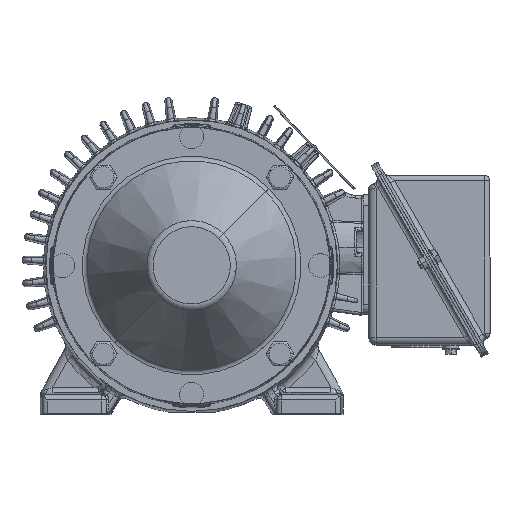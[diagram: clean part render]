
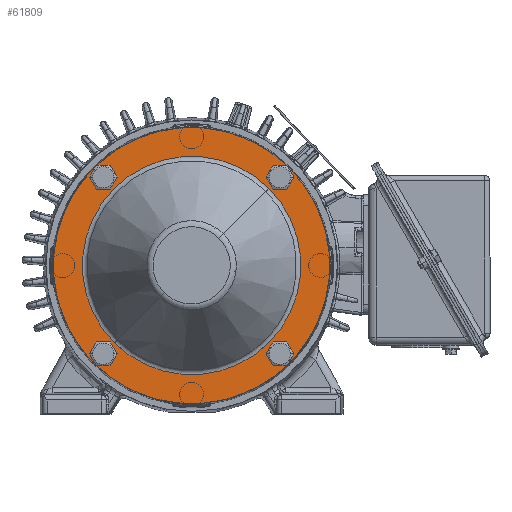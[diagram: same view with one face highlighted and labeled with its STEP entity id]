
A CAD part, top view. The second image highlights one B-rep face of the part: STEP entity #61809.
In plain terms, the highlighted planar face has unit normal (0, 0, 1).
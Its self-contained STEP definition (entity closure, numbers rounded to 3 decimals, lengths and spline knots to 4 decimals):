
#1041 = CARTESIAN_POINT ( 'NONE',  ( -2.2981, -2.2981, -1.7028 ) ) ;
#1823 = CIRCLE ( 'NONE', #78705, 0.2031 ) ;
#3154 = ORIENTED_EDGE ( 'NONE', *, *, #72715, .F. ) ;
#3495 = DIRECTION ( 'NONE',  ( -0.707, -0.707, 0. ) ) ;
#3705 = EDGE_CURVE ( 'NONE', #59226, #78742, #40432, .T. ) ;
#4012 = DIRECTION ( 'NONE',  ( 0., 0., 1. ) ) ;
#4861 = DIRECTION ( 'NONE',  ( 0., 0., 1. ) ) ;
#5692 = DIRECTION ( 'NONE',  ( -0.707, -0.707, 0. ) ) ;
#6611 = CARTESIAN_POINT ( 'NONE',  ( 1.8152, 1.8152, -1.7028 ) ) ;
#7069 = CARTESIAN_POINT ( 'NONE',  ( 1.9335, 1.9335, -1.7028 ) ) ;
#9165 = ORIENTED_EDGE ( 'NONE', *, *, #90983, .F. ) ;
#13343 = DIRECTION ( 'NONE',  ( 0., 0., 1. ) ) ;
#14379 = EDGE_CURVE ( 'NONE', #145038, #64866, #143306, .T. ) ;
#14680 = CIRCLE ( 'NONE', #56898, 0.2031 ) ;
#15129 = EDGE_CURVE ( 'NONE', #105769, #33941, #141445, .T. ) ;
#16426 = DIRECTION ( 'NONE',  ( -0.707, -0.707, 0. ) ) ;
#17420 = CIRCLE ( 'NONE', #55426, 0.2031 ) ;
#23714 = DIRECTION ( 'NONE',  ( -0.707, -0.707, 0. ) ) ;
#24202 = CIRCLE ( 'NONE', #40512, 0.2031 ) ;
#25488 = EDGE_LOOP ( 'NONE', ( #138414, #101438 ) ) ;
#25744 = CARTESIAN_POINT ( 'NONE',  ( 2.0771, 2.0771, -1.7028 ) ) ;
#26695 = EDGE_LOOP ( 'NONE', ( #98708, #83068 ) ) ;
#26887 = CARTESIAN_POINT ( 'NONE',  ( 2.0771, -2.0771, -1.7028 ) ) ;
#27259 = DIRECTION ( 'NONE',  ( -0.707, -0.707, 0. ) ) ;
#28865 = ORIENTED_EDGE ( 'NONE', *, *, #49013, .F. ) ;
#30412 = VERTEX_POINT ( 'NONE', #51287 ) ;
#30979 = CARTESIAN_POINT ( 'NONE',  ( -2.0771, -2.0771, -1.7028 ) ) ;
#33941 = VERTEX_POINT ( 'NONE', #64008 ) ;
#34620 = CARTESIAN_POINT ( 'NONE',  ( 2.0771, 2.0771, -1.7028 ) ) ;
#36539 = CARTESIAN_POINT ( 'NONE',  ( -1.8152, -1.8152, -1.7028 ) ) ;
#37282 = VERTEX_POINT ( 'NONE', #142942 ) ;
#40432 = CIRCLE ( 'NONE', #70137, 3.25 ) ;
#40512 = AXIS2_PLACEMENT_3D ( 'NONE', #141668, #4861, #27259 ) ;
#40888 = AXIS2_PLACEMENT_3D ( 'NONE', #97448, #143558, #86562 ) ;
#44338 = EDGE_LOOP ( 'NONE', ( #146472, #89629 ) ) ;
#47723 = ORIENTED_EDGE ( 'NONE', *, *, #143371, .F. ) ;
#49013 = EDGE_CURVE ( 'NONE', #85733, #75561, #24202, .T. ) ;
#49088 = CARTESIAN_POINT ( 'NONE',  ( -2.2981, -2.2981, -1.7028 ) ) ;
#50923 = FACE_BOUND ( 'NONE', #26695, .T. ) ;
#51287 = CARTESIAN_POINT ( 'NONE',  ( 1.9335, -2.2208, -1.7028 ) ) ;
#52502 = CARTESIAN_POINT ( 'NONE',  ( -2.2208, 1.9335, -1.7028 ) ) ;
#52808 = FACE_BOUND ( 'NONE', #82635, .T. ) ;
#54339 = CARTESIAN_POINT ( 'NONE',  ( 0., 0., -1.7028 ) ) ;
#55426 = AXIS2_PLACEMENT_3D ( 'NONE', #104230, #81875, #3495 ) ;
#56898 = AXIS2_PLACEMENT_3D ( 'NONE', #126872, #13343, #81733 ) ;
#57632 = DIRECTION ( 'NONE',  ( 0., 0., 1. ) ) ;
#58105 = DIRECTION ( 'NONE',  ( -0.707, -0.707, 0. ) ) ;
#58595 = CARTESIAN_POINT ( 'NONE',  ( 0., 0., -1.7028 ) ) ;
#59226 = VERTEX_POINT ( 'NONE', #1041 ) ;
#59527 = DIRECTION ( 'NONE',  ( 0., 0., 1. ) ) ;
#60688 = CIRCLE ( 'NONE', #126472, 0.2031 ) ;
#61217 = DIRECTION ( 'NONE',  ( 0., 0., 1. ) ) ;
#61650 = FACE_BOUND ( 'NONE', #126586, .T. ) ;
#61809 = ADVANCED_FACE ( 'NONE', ( #52808, #88311, #129142, #50923, #111396, #61650 ), #81879, .T. ) ;
#62631 = CIRCLE ( 'NONE', #67640, 0.2031 ) ;
#63754 = DIRECTION ( 'NONE',  ( 0., 0., 1. ) ) ;
#64008 = CARTESIAN_POINT ( 'NONE',  ( -2.2208, -2.2208, -1.7028 ) ) ;
#64305 = DIRECTION ( 'NONE',  ( -0.707, -0.707, 0. ) ) ;
#64866 = VERTEX_POINT ( 'NONE', #36539 ) ;
#65748 = EDGE_CURVE ( 'NONE', #75561, #85733, #17420, .T. ) ;
#67640 = AXIS2_PLACEMENT_3D ( 'NONE', #34620, #79710, #23714 ) ;
#70137 = AXIS2_PLACEMENT_3D ( 'NONE', #58595, #57632, #58105 ) ;
#70919 = DIRECTION ( 'NONE',  ( -0.707, -0.707, 0. ) ) ;
#72715 = EDGE_CURVE ( 'NONE', #125833, #123066, #62631, .T. ) ;
#73883 = AXIS2_PLACEMENT_3D ( 'NONE', #117760, #61217, #5692 ) ;
#74670 = CARTESIAN_POINT ( 'NONE',  ( 2.2981, 2.2981, -1.7028 ) ) ;
#75188 = DIRECTION ( 'NONE',  ( -0.707, -0.707, 0. ) ) ;
#75561 = VERTEX_POINT ( 'NONE', #101566 ) ;
#78705 = AXIS2_PLACEMENT_3D ( 'NONE', #25744, #138742, #104570 ) ;
#78742 = VERTEX_POINT ( 'NONE', #74670 ) ;
#79710 = DIRECTION ( 'NONE',  ( 0., 0., 1. ) ) ;
#81733 = DIRECTION ( 'NONE',  ( -0.707, -0.707, 0. ) ) ;
#81875 = DIRECTION ( 'NONE',  ( 0., 0., 1. ) ) ;
#81879 = PLANE ( 'NONE',  #135869 ) ;
#82635 = EDGE_LOOP ( 'NONE', ( #9165, #3154 ) ) ;
#83068 = ORIENTED_EDGE ( 'NONE', *, *, #15129, .F. ) ;
#83490 = EDGE_LOOP ( 'NONE', ( #28865, #130049 ) ) ;
#85733 = VERTEX_POINT ( 'NONE', #52502 ) ;
#86562 = DIRECTION ( 'NONE',  ( -0.707, -0.707, 0. ) ) ;
#87980 = DIRECTION ( 'NONE',  ( 0., 0., 1. ) ) ;
#88311 = FACE_BOUND ( 'NONE', #83490, .T. ) ;
#88754 = ORIENTED_EDGE ( 'NONE', *, *, #14379, .F. ) ;
#89629 = ORIENTED_EDGE ( 'NONE', *, *, #118981, .T. ) ;
#89916 = EDGE_CURVE ( 'NONE', #30412, #37282, #120813, .T. ) ;
#90983 = EDGE_CURVE ( 'NONE', #123066, #125833, #1823, .T. ) ;
#93448 = EDGE_CURVE ( 'NONE', #37282, #30412, #60688, .T. ) ;
#96511 = CARTESIAN_POINT ( 'NONE',  ( 0., 0., -1.7028 ) ) ;
#97448 = CARTESIAN_POINT ( 'NONE',  ( 0., 0., -1.7028 ) ) ;
#98708 = ORIENTED_EDGE ( 'NONE', *, *, #110652, .F. ) ;
#101438 = ORIENTED_EDGE ( 'NONE', *, *, #93448, .F. ) ;
#101566 = CARTESIAN_POINT ( 'NONE',  ( -1.9335, 2.2208, -1.7028 ) ) ;
#103446 = AXIS2_PLACEMENT_3D ( 'NONE', #54339, #134253, #64305 ) ;
#104230 = CARTESIAN_POINT ( 'NONE',  ( -2.0771, 2.0771, -1.7028 ) ) ;
#104570 = DIRECTION ( 'NONE',  ( -0.707, -0.707, 0. ) ) ;
#105769 = VERTEX_POINT ( 'NONE', #111626 ) ;
#109096 = AXIS2_PLACEMENT_3D ( 'NONE', #30979, #87980, #109849 ) ;
#109849 = DIRECTION ( 'NONE',  ( -0.707, -0.707, 0. ) ) ;
#109975 = CIRCLE ( 'NONE', #139313, 3.25 ) ;
#110652 = EDGE_CURVE ( 'NONE', #33941, #105769, #14680, .T. ) ;
#111396 = FACE_OUTER_BOUND ( 'NONE', #44338, .T. ) ;
#111626 = CARTESIAN_POINT ( 'NONE',  ( -1.9335, -1.9335, -1.7028 ) ) ;
#111650 = CARTESIAN_POINT ( 'NONE',  ( 2.2208, 2.2208, -1.7028 ) ) ;
#117760 = CARTESIAN_POINT ( 'NONE',  ( 2.0771, -2.0771, -1.7028 ) ) ;
#118981 = EDGE_CURVE ( 'NONE', #78742, #59226, #109975, .T. ) ;
#120813 = CIRCLE ( 'NONE', #73883, 0.2031 ) ;
#123066 = VERTEX_POINT ( 'NONE', #7069 ) ;
#125833 = VERTEX_POINT ( 'NONE', #111650 ) ;
#126211 = CIRCLE ( 'NONE', #40888, 2.5671 ) ;
#126472 = AXIS2_PLACEMENT_3D ( 'NONE', #26887, #4012, #16426 ) ;
#126586 = EDGE_LOOP ( 'NONE', ( #47723, #88754 ) ) ;
#126872 = CARTESIAN_POINT ( 'NONE',  ( -2.0771, -2.0771, -1.7028 ) ) ;
#129142 = FACE_BOUND ( 'NONE', #25488, .T. ) ;
#130049 = ORIENTED_EDGE ( 'NONE', *, *, #65748, .F. ) ;
#134253 = DIRECTION ( 'NONE',  ( 0., 0., 1. ) ) ;
#135869 = AXIS2_PLACEMENT_3D ( 'NONE', #49088, #59527, #70919 ) ;
#138414 = ORIENTED_EDGE ( 'NONE', *, *, #89916, .F. ) ;
#138742 = DIRECTION ( 'NONE',  ( 0., 0., 1. ) ) ;
#139313 = AXIS2_PLACEMENT_3D ( 'NONE', #96511, #63754, #75188 ) ;
#141445 = CIRCLE ( 'NONE', #109096, 0.2031 ) ;
#141668 = CARTESIAN_POINT ( 'NONE',  ( -2.0771, 2.0771, -1.7028 ) ) ;
#142942 = CARTESIAN_POINT ( 'NONE',  ( 2.2208, -1.9335, -1.7028 ) ) ;
#143306 = CIRCLE ( 'NONE', #103446, 2.5671 ) ;
#143371 = EDGE_CURVE ( 'NONE', #64866, #145038, #126211, .T. ) ;
#143558 = DIRECTION ( 'NONE',  ( 0., 0., 1. ) ) ;
#145038 = VERTEX_POINT ( 'NONE', #6611 ) ;
#146472 = ORIENTED_EDGE ( 'NONE', *, *, #3705, .T. ) ;
